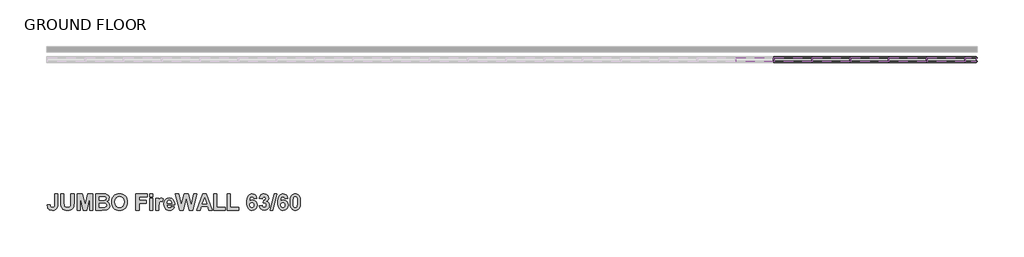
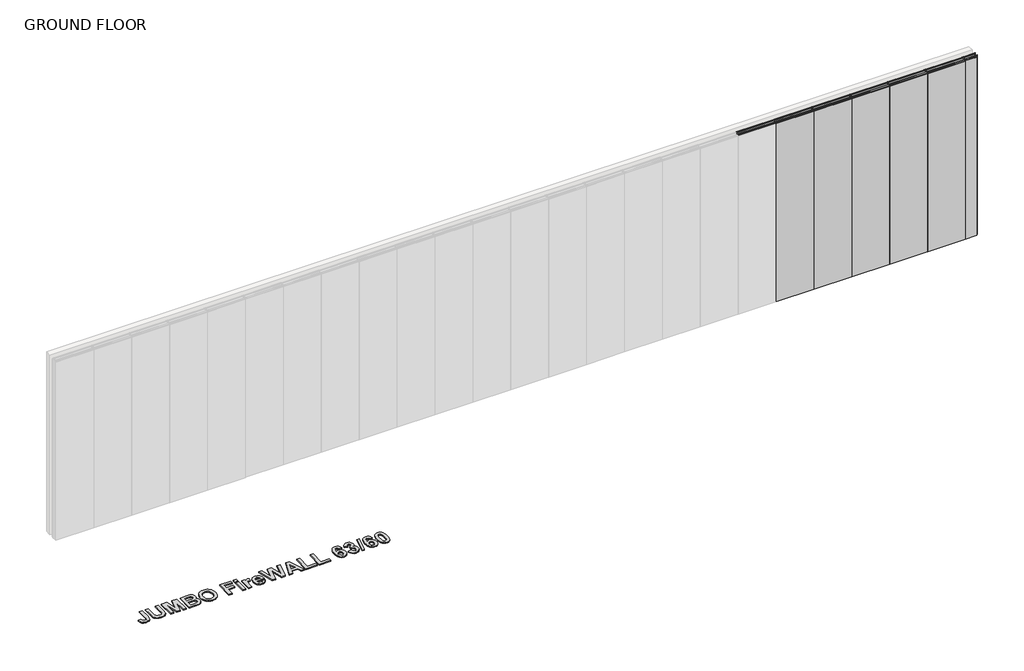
# One storey, part 2 of 2: 20 members, 6 plates, 1 proxy.
"""IFC4 building model written with IfcOpenShell, lengths in millimetres."""

from ifc_helpers import new_model, si_unit, origin, origin_with_axes, place, context, project, spatial, polyline, outline, extrude, transform, mapped, element, save
from components import rectangular_mullion_stud_mullion_63mm_b2ef130e, rectangular_mullion_stud_mullion_63mm_af775e70, rectangular_mullion_stud_mullion_63mm_c22ba0a2, rectangular_mullion_stud_mullion_63mm_ab3eab4e, rectangular_mullion_stud_mullion_63mm_06861ceb, rectangular_mullion_stud_mullion_63mm_08592bac, plate_2_layer_drywall_panels_2_layer_15mm_drywall_panels_7b1b0b35, plate_2_layer_drywall_panels_2_layer_15mm_drywall_panels_d108bd86

model = new_model("IFC4")

# Units and contexts
model_context = context("Model", 3, world=origin())
ifc_project = project(units=[si_unit("LENGTHUNIT", "METRE", prefix="MILLI")], contexts=[model_context])

# Site, building, storey
site = spatial("IfcSite", under=ifc_project)
building = spatial("IfcBuilding", under=site)
storey = spatial("IfcBuildingStorey", under=building, Name="GROUND FLOOR", Elevation=0.0)

# Proxy
placement = place(None, origin())
element("IfcBuildingElementProxy", 1, Name="600mm Arial", ObjectType="600mm Arial", at=placement, inside=storey, context=model_context, shape_type="SweptSolid", body=[
    extrude(outline(polyline([(61762.9500241, -33369.743976), (61811.5338051, -33369.743976), (61811.5338051, -33530.994051), (61810.1104521, -33558.9866592), (61805.8403932, -33579.7043522), (61795.149431, -33599.7261838), (61778.2589759, -33615.3830664), (61755.0741377, -33625.4888724), (61725.5000263, -33628.8574744), (61691.5293357, -33623.4566406), (61677.8651473, -33616.7055985), (61666.4150635, -33607.2541395), (61657.3530497, -33595.1892463), (61650.8530712, -33580.5979016), (61645.5392201, -33543.8358577), (61694.1230011, -33539.7872093), (61696.3529207, -33558.417318), (61701.1448757, -33570.6581534), (61712.5633294, -33580.9062947), (61728.726293, -33584.3223418), (61744.7073837, -33581.8710117), (61755.200658, -33574.5170215), (61761.0126826, -33559.4611102), (61762.9500241, -33533.9040171), (61762.9500241, -33369.743976)])), origin_with_axes(), (0.0, 0.0, 1.0), 15.0),
    extrude(outline(polyline([(61860.117586, -33369.743976), (61908.701367, -33369.743976), (61908.701367, -33507.3347619), (61910.7889513, -33549.8455702), (61916.8777389, -33563.8814119), (61927.9324469, -33574.8649522), (61943.9530752, -33581.9579944), (61964.9396238, -33584.3223418), (61985.9024499, -33582.0924222), (62000.9662687, -33575.4026633), (62010.6687913, -33565.4629151), (62015.547729, -33553.4830277), (62018.0148741, -33510.307988), (62018.0148741, -33369.743976), (62066.598655, -33369.743976), (62066.598655, -33503.539154), (62062.3602262, -33568.3807887), (62056.3346987, -33585.8326775), (62046.7349738, -33600.3587851), (62033.4266236, -33612.085632), (62016.2752205, -33621.1397383), (61994.2844173, -33626.9280404), (61966.457867, -33628.8574744), (61933.8630842, -33626.754075), (61910.2196101, -33620.4438769), (61893.0602995, -33610.7650768), (61879.9180071, -33598.5558714), (61870.682028, -33584.7493477), (61865.2416567, -33570.2785926), (61861.3986037, -33543.1716263), (61860.117586, -33505.6267383), (61860.117586, -33369.743976)])), origin_with_axes(), (0.0, 0.0, 1.0), 15.0),
    extrude(outline(polyline([(62115.182436, -33624.808826), (62115.182436, -33369.743976), (62198.432769, -33369.743976), (62238.6662126, -33543.7093374), (62278.8996562, -33369.743976), (62362.1499892, -33369.743976), (62362.1499892, -33624.808826), (62313.5662082, -33624.808826), (62311.541884, -33424.0211687), (62267.1332717, -33624.808826), (62210.2624136, -33624.808826), (62165.7905412, -33424.0211687), (62163.7662169, -33624.808826), (62115.182436, -33624.808826)])), origin_with_axes(), (0.0, 0.0, 1.0), 15.0),
    extrude(outline(polyline([(62410.7337701, -33369.743976), (62515.4292877, -33369.743976), (62561.7673339, -33372.2743812), (62589.0957107, -33382.8704532), (62600.1425112, -33392.2645828), (62609.1808025, -33404.3156378), (62615.20633, -33418.5096298), (62617.2148391, -33434.3325702), (62614.8188617, -33451.570956), (62607.6309292, -33467.3543588), (62596.3310883, -33480.5282812), (62581.5993851, -33489.9382257), (62600.2294939, -33499.0793147), (62613.9885724, -33512.9649136), (62622.4812451, -33530.6619353), (62625.312136, -33551.2372931), (62623.2799042, -33568.3254361), (62617.1832091, -33584.9233131), (62607.5676691, -33599.6312936), (62594.9789029, -33611.0497474), (62579.2666678, -33618.9493563), (62560.2807208, -33623.1008024), (62497.9062312, -33624.808826), (62410.7337701, -33624.808826), (62410.7337701, -33369.743976)]), holes=[polyline([(62459.3175511, -33414.2791085), (62459.3175511, -33470.9601863), (62496.3879881, -33470.9601863), (62537.5070735, -33470.1378046), (62550.4516779, -33467.1803934), (62560.3123509, -33461.3446463), (62566.5513814, -33452.9152338), (62568.6310582, -33442.1768265), (62566.836052, -33431.9049626), (62561.4510333, -33423.7364982), (62552.5392623, -33418.0193638), (62540.163999, -33415.1014902), (62491.8332586, -33414.2791085), (62459.3175511, -33414.2791085)]), polyline([(62459.3175511, -33515.4953188), (62459.3175511, -33580.2736934), (62510.6847778, -33580.2736934), (62548.7673769, -33578.7554503), (62560.0118653, -33575.3631257), (62568.9473589, -33569.1082802), (62574.783106, -33560.117434), (62576.728355, -33548.5171074), (62575.2259269, -33538.4587465), (62570.7186425, -33530.045149), (62553.3853665, -33518.974626), (62504.1689843, -33515.4953188), (62459.3175511, -33515.4953188)])]), origin_with_axes(), (0.0, 0.0, 1.0), 15.0),
    extrude(outline(polyline([(62657.7013233, -33498.8579042), (62660.5638442, -33463.0842999), (62669.1514071, -33433.5734486), (62679.2493055, -33415.1410278), (62692.4627655, -33398.6854861), (62707.9377752, -33385.2189856), (62724.8203227, -33375.7536884), (62750.0294851, -33368.2099178), (62778.844475, -33365.6953275), (62805.1369671, -33367.8758252), (62828.6618285, -33374.4173182), (62849.4190591, -33385.3198065), (62867.408659, -33400.58329), (62881.9387205, -33419.7293642), (62892.3173358, -33442.2796242), (62898.544505, -33468.23407), (62900.620228, -33497.5927016), (62898.56032, -33526.7516685), (62892.3805959, -33552.5499408), (62882.0810558, -33574.9875187), (62867.6616995, -33594.0644021), (62849.7907124, -33609.2863712), (62829.1362795, -33620.1592063), (62805.6984008, -33626.6829073), (62779.4770763, -33628.8574744), (62752.9789887, -33626.6927917), (62729.3434221, -33620.1987439), (62708.5703765, -33609.3753308), (62690.6598518, -33594.2225524), (62676.2404955, -33575.2741661), (62665.9409554, -33553.0639294), (62659.7612313, -33527.5918421), (62657.7013233, -33498.8579042)]), holes=[polyline([(62706.2851042, -33497.0866206), (62711.4487125, -33534.837104), (62717.9032227, -33549.8099864), (62726.9395371, -33562.1812958), (62750.3853234, -33578.7870803), (62779.4138162, -33584.3223418), (62808.3790489, -33578.8266179), (62831.6350547, -33562.3394461), (62840.5606639, -33549.9740673), (62846.936099, -33534.8608266), (62852.0364471, -33496.3907591), (62847.0705268, -33458.4979404), (62840.8631264, -33443.6792546), (62832.1727658, -33431.6123845), (62809.0511878, -33415.5759412), (62779.4138162, -33410.2304601), (62749.7131845, -33415.6392013), (62726.401826, -33431.865425), (62717.6007602, -33444.0548616), (62711.3142847, -33458.9882064), (62706.2851042, -33497.0866206)])]), origin_with_axes(), (0.0, 0.0, 1.0), 15.0),
    extrude(outline(polyline([(63038.2742741, -33624.808826), (63038.2742741, -33369.743976), (63212.3661558, -33369.743976), (63212.3661558, -33414.2791085), (63086.858055, -33414.2791085), (63086.858055, -33470.9601863), (63196.1715621, -33470.9601863), (63196.1715621, -33515.4953188), (63086.858055, -33515.4953188), (63086.858055, -33624.808826), (63038.2742741, -33624.808826)])), origin_with_axes(), (0.0, 0.0, 1.0), 15.0),
    extrude(outline(polyline([(63252.8526399, -33414.2791085), (63252.8526399, -33369.743976), (63301.4364209, -33369.743976), (63301.4364209, -33414.2791085), (63252.8526399, -33414.2791085)])), origin_with_axes(), (0.0, 0.0, 1.0), 15.0),
    extrude(outline(polyline([(63252.8526399, -33624.808826), (63252.8526399, -33438.570999), (63301.4364209, -33438.570999), (63301.4364209, -33624.808826), (63252.8526399, -33624.808826)])), origin_with_axes(), (0.0, 0.0, 1.0), 15.0),
    extrude(outline(polyline([(63398.6039828, -33624.808826), (63350.0202018, -33624.808826), (63350.0202018, -33438.570999), (63398.6039828, -33438.570999), (63398.6039828, -33464.5076529), (63418.0248431, -33440.3106526), (63437.6354839, -33434.5223506), (63452.8021004, -33437.0843859), (63467.4310058, -33444.7704919), (63453.2607363, -33491.0136479), (63441.557612, -33485.0830106), (63430.7401295, -33483.1061315), (63413.628264, -33488.641393), (63407.381326, -33496.3986666), (63402.6210011, -33508.5999645), (63398.6039828, -33569.0766501), (63398.6039828, -33624.808826)])), origin_with_axes(), (0.0, 0.0, 1.0), 15.0),
    extrude(outline(polyline([(63592.9391066, -33568.1277482), (63641.5228875, -33576.225045), (63629.6932429, -33598.8958946), (63612.5497473, -33615.4146964), (63590.266366, -33625.4967799), (63563.0170644, -33628.8574744), (63541.0143999, -33626.8766415), (63522.0719443, -33620.9341429), (63506.1896976, -33611.0299786), (63493.3676597, -33597.1641485), (63479.9881419, -33568.4598639), (63475.5283026, -33533.0816354), (63477.0070082, -33511.241075), (63481.4431249, -33491.8992898), (63488.8366528, -33475.0562798), (63499.1875918, -33460.712045), (63511.8000805, -33449.2540537), (63525.9782574, -33441.0697742), (63541.7221226, -33436.1592065), (63559.0316761, -33434.5223506), (63578.2667098, -33436.2026978), (63595.3588066, -33441.2437395), (63610.3079664, -33449.6454757), (63623.1141893, -33461.4079064), (63633.3188392, -33476.6417368), (63640.4632803, -33495.4576722), (63644.5475126, -33517.8557125), (63645.5715359, -33543.8358577), (63524.1120836, -33543.8358577), (63527.227645, -33564.3005102), (63535.5621673, -33579.6410921), (63547.8504479, -33589.225002), (63562.827284, -33592.4196387), (63573.0279802, -33590.9804707), (63581.4890228, -33586.6629667), (63588.1471516, -33579.1508261), (63592.9391066, -33568.1277482)]), holes=[polyline([(63596.987755, -33515.4953188), (63594.0303438, -33496.2879614), (63586.1702725, -33482.3153799), (63574.7518188, -33473.7989847), (63561.1192604, -33470.9601863), (63546.7275805, -33473.9492275), (63535.0560863, -33482.9163511), (63527.4016104, -33497.0708055), (63524.9344653, -33515.4953188), (63596.987755, -33515.4953188)])]), origin_with_axes(), (0.0, 0.0, 1.0), 15.0),
    extrude(outline(polyline([(64232.6255557, -33624.808826), (64181.5746297, -33624.808826), (64161.5844281, -33568.1277482), (64065.2392479, -33568.1277482), (64045.5020869, -33624.808826), (63993.7552994, -33624.808826), (64086.8742129, -33369.743976), (64138.6210004, -33369.743976), (64232.6255557, -33624.808826)]), holes=[polyline([(64146.0224358, -33523.5926156), (64113.1904276, -33430.4737021), (64080.8012403, -33523.5926156), (64146.0224358, -33523.5926156)])]), origin_with_axes(), (0.0, 0.0, 1.0), 15.0),
    extrude(outline(polyline([(63721.9265146, -33624.808826), (63657.7174812, -33369.743976), (63707.5664647, -33369.743976), (63748.8120704, -33544.9745401), (63793.1574226, -33369.743976), (63858.5051384, -33369.743976), (63902.6607101, -33547.8845061), (63943.9063158, -33369.743976), (63993.7552994, -33369.743976), (63930.495168, -33624.808826), (63872.9917085, -33624.808826), (63825.7363903, -33434.1427898), (63777.5321701, -33624.808826), (63721.9265146, -33624.808826)])), origin_with_axes(), (0.0, 0.0, 1.0), 15.0),
    extrude(outline(polyline([(64256.9174462, -33624.808826), (64256.9174462, -33369.743976), (64305.5012272, -33369.743976), (64305.5012272, -33580.2736934), (64435.0579764, -33580.2736934), (64435.0579764, -33624.808826), (64256.9174462, -33624.808826)])), origin_with_axes(), (0.0, 0.0, 1.0), 15.0),
    extrude(outline(polyline([(64471.4958121, -33624.808826), (64471.4958121, -33369.743976), (64520.079593, -33369.743976), (64520.079593, -33580.2736934), (64649.6363422, -33580.2736934), (64649.6363422, -33624.808826), (64471.4958121, -33624.808826)])), origin_with_axes(), (0.0, 0.0, 1.0), 15.0),
    extrude(outline(polyline([(64933.0417311, -33437.4323166), (64884.4579502, -33442.6196474), (64881.484724, -33430.0229737), (64875.8545723, -33421.2060929), (64867.8521657, -33416.0108546), (64857.7621747, -33414.2791085), (64844.1612464, -33417.639803), (64832.8376829, -33427.7218864), (64824.5347907, -33448.5581922), (64819.9958762, -33484.1815537), (64840.0177078, -33468.1925555), (64864.4044885, -33462.8628894), (64892.2310388, -33468.5563013), (64915.7400852, -33485.6365368), (64931.7528059, -33511.715526), (64937.0903795, -33544.4051989), (64931.6341932, -33578.8424329), (64924.8139603, -33593.232136), (64915.2656342, -33605.7358963), (64903.5743711, -33615.8515867), (64890.3253274, -33623.0770799), (64859.1538976, -33628.8574744), (64841.6229337, -33626.9913005), (64825.7209181, -33621.3927789), (64811.447851, -33612.0619095), (64798.8037322, -33598.9986923), (64788.4527932, -33581.6851851), (64781.0592653, -33559.6034455), (64776.6231486, -33532.7534734), (64775.144443, -33501.135269), (64776.6883856, -33468.6828215), (64781.3202134, -33441.1014042), (64789.0399263, -33418.391017), (64799.8475244, -33400.55166), (64813.1222676, -33387.0732982), (64828.2434159, -33377.445897), (64845.2109692, -33371.6694562), (64864.0249277, -33369.743976), (64889.3447953, -33374.077295), (64909.888523, -33387.077252), (64924.7546539, -33408.3326561), (64933.0417311, -33437.4323166)]), holes=[polyline([(64823.728224, -33543.3297766), (64826.3535194, -33560.7500353), (64834.2294058, -33573.6630097), (64845.4738942, -33581.6575088), (64858.2049956, -33584.3223418), (64870.0979003, -33582.1398673), (64879.8399606, -33575.5924437), (64886.3399391, -33564.0632847), (64888.5065986, -33546.9356041), (64886.1738812, -33529.1832298), (64879.1757292, -33516.9186718), (64868.6824549, -33509.7781844), (64855.8643707, -33507.398022), (64843.4258474, -33509.6753867), (64833.0590934, -33516.5074809), (64826.0609413, -33527.7677843), (64823.728224, -33543.3297766)])]), origin_with_axes(), (0.0, 0.0, 1.0), 15.0),
    extrude(outline(polyline([(64969.4795668, -33553.5146578), (65018.0633478, -33547.8845061), (65021.8115106, -33563.5097586), (65029.0073505, -33574.9598424), (65038.860116, -33581.981717), (65050.5790553, -33584.3223418), (65063.1520065, -33581.6416938), (65073.5424831, -33573.5997495), (65080.5169125, -33561.0188909), (65082.8417224, -33544.7214995), (65080.7146005, -33529.3018425), (65074.3332347, -33517.4563829), (65064.8837526, -33509.9126122), (65053.5522815, -33507.398022), (65034.2579414, -33511.0038495), (65038.4963702, -33470.9601863), (65052.3266165, -33469.2205327), (65062.44033, -33462.9894097), (65068.6319154, -33453.1208292), (65070.6957771, -33440.4688029), (65069.1538114, -33429.7224881), (65064.5279143, -33421.3958733), (65057.3399819, -33416.0582997), (65048.1119102, -33414.2791085), (65038.7256882, -33416.3429703), (65030.8102643, -33422.5345557), (65025.0456848, -33432.6957143), (65022.1119962, -33446.6682958), (64973.5282152, -33439.3933807), (64979.0871993, -33417.655618), (64986.907733, -33400.7730704), (64997.6303253, -33387.8600961), (65011.895485, -33378.0310532), (65028.8887378, -33371.8157453), (65047.7956096, -33369.743976), (65078.4451432, -33375.4848329), (65091.2315973, -33382.6609041), (65102.3258429, -33392.7074037), (65115.0411293, -33412.7292353), (65119.2795581, -33435.218212), (65117.0061471, -33451.1637189), (65110.1859142, -33465.4091097), (65098.8188593, -33477.9543846), (65082.9049825, -33488.7995433), (65102.7686638, -33496.3512215), (65118.2041359, -33509.6437567), (65128.1201615, -33527.5068363), (65131.4255033, -33548.770148), (65125.5660337, -33579.5382944), (65107.9876246, -33605.4195957), (65095.5510782, -33615.6736676), (65081.6793175, -33622.9980047), (65049.6301534, -33628.8574744), (65019.368088, -33623.646421), (64994.7519893, -33608.0132611), (64977.5373261, -33583.9665036), (64969.4795668, -33553.5146578)])), origin_with_axes(), (0.0, 0.0, 1.0), 15.0),
    extrude(outline(polyline([(65146.7344551, -33624.808826), (65207.4641813, -33369.743976), (65244.7876589, -33369.743976), (65184.0579327, -33624.808826), (65146.7344551, -33624.808826)])), origin_with_axes(), (0.0, 0.0, 1.0), 15.0),
    extrude(outline(polyline([(65418.8795406, -33437.4323166), (65370.2957597, -33442.6196474), (65367.3225335, -33430.0229737), (65361.6923818, -33421.2060929), (65353.6899752, -33416.0108546), (65343.5999842, -33414.2791085), (65329.9990559, -33417.639803), (65318.6754924, -33427.7218864), (65310.3726002, -33448.5581922), (65305.8336857, -33484.1815537), (65325.8555173, -33468.1925555), (65350.242298, -33462.8628894), (65378.0688483, -33468.5563013), (65401.5778947, -33485.6365368), (65417.5906154, -33511.715526), (65422.928189, -33544.4051989), (65417.4720027, -33578.8424329), (65410.6517698, -33593.232136), (65401.1034437, -33605.7358963), (65389.4121806, -33615.8515867), (65376.1631369, -33623.0770799), (65344.9917071, -33628.8574744), (65327.4607432, -33626.9913005), (65311.5587276, -33621.3927789), (65297.2856605, -33612.0619095), (65284.6415417, -33598.9986923), (65274.2906027, -33581.6851851), (65266.8970748, -33559.6034455), (65262.4609581, -33532.7534734), (65260.9822525, -33501.135269), (65262.5261951, -33468.6828215), (65267.1580229, -33441.1014042), (65274.8777358, -33418.391017), (65285.6853339, -33400.55166), (65298.9600771, -33387.0732982), (65314.0812254, -33377.445897), (65331.0487787, -33371.6694562), (65349.8627372, -33369.743976), (65375.1826048, -33374.077295), (65395.7263325, -33387.077252), (65410.5924634, -33408.3326561), (65418.8795406, -33437.4323166)]), holes=[polyline([(65309.5660335, -33543.3297766), (65312.1913289, -33560.7500353), (65320.0672153, -33573.6630097), (65331.3117037, -33581.6575088), (65344.0428051, -33584.3223418), (65355.9357098, -33582.1398673), (65365.6777701, -33575.5924437), (65372.1777486, -33564.0632847), (65374.3444081, -33546.9356041), (65372.0116907, -33529.1832298), (65365.0135387, -33516.9186718), (65354.5202644, -33509.7781844), (65341.7021803, -33507.398022), (65329.2636569, -33509.6753867), (65318.8969029, -33516.5074809), (65311.8987508, -33527.7677843), (65309.5660335, -33543.3297766)])]), origin_with_axes(), (0.0, 0.0, 1.0), 15.0),
    extrude(outline(polyline([(65536.2903446, -33369.743976), (65553.4219789, -33371.3887394), (65568.5688267, -33376.3230296), (65581.7308877, -33384.5468467), (65592.9081622, -33396.0601906), (65603.5635406, -33414.1881721), (65611.1745252, -33437.4481316), (65615.7411159, -33465.8400694), (65617.2633128, -33499.3639853), (65615.7332084, -33532.8562711), (65611.1428951, -33561.2798389), (65603.492373, -33584.6346887), (65592.781642, -33602.9208205), (65581.6597201, -33614.2681065), (65568.5371966, -33622.3733109), (65553.4140714, -33627.2364335), (65536.2903446, -33628.8574744), (65518.982768, -33627.0782832), (65503.4346138, -33621.7407096), (65489.645882, -33612.8447536), (65477.6165727, -33600.3904152), (65467.8606743, -33583.3694861), (65460.8921754, -33560.7737579), (65456.7110761, -33532.6032306), (65455.3173763, -33498.8579042), (65456.8474808, -33465.5316762), (65461.437794, -33437.2267212), (65469.0883162, -33413.9430391), (65479.7990472, -33395.6806299), (65490.9209691, -33384.3333438), (65504.0434926, -33376.2281394), (65519.1666177, -33371.3650168), (65536.2903446, -33369.743976)]), holes=[polyline([(65536.2903446, -33414.2791085), (65520.0957509, -33419.6245896), (65513.7697378, -33427.0971926), (65509.0884881, -33438.8240395), (65505.19799, -33462.9735947), (65503.9011573, -33499.3639853), (65505.0556547, -33535.2720174), (65508.5191469, -33557.8479768), (65513.7460152, -33571.1009744), (65520.1906411, -33579.0401208), (65536.2903446, -33584.3223418), (65552.4849382, -33578.9768607), (65558.8109514, -33571.5042577), (65563.4922011, -33559.7774108), (65567.3826992, -33535.7543759), (65568.6795319, -33499.3639853), (65567.5250345, -33463.4954908), (65564.0615423, -33440.9116238), (65558.8346739, -33427.6190887), (65552.390048, -33419.6245896), (65536.2903446, -33414.2791085)])]), origin_with_axes(), (0.0, 0.0, 1.0), 15.0),
])

# Members
rectangular_mullion_stud_mullion_63mm_shape = rectangular_mullion_stud_mullion_63mm_b2ef130e(model_context)
element("IfcMember", 2, ObjectType="Rectangular Mullion : Stud Mullion - 63mm", at=placement, inside=storey, context=model_context, shape_type="MappedRepresentation", body=[
    mapped(rectangular_mullion_stud_mullion_63mm_shape, transform((76216.5186508, -31259.4010443, 3000.0), x_axis=(0.0, 0.0, 1.0), y_axis=(0.0, -1.0, 0.0), z_axis=(1.0, 0.0, 0.0))),
])
rectangular_mullion_stud_mullion_63mm_2_shape = rectangular_mullion_stud_mullion_63mm_af775e70(model_context)
element("IfcMember", 3, ObjectType="Rectangular Mullion : Stud Mullion - 63mm", at=placement, inside=storey, context=model_context, shape_type="MappedRepresentation", body=[
    mapped(rectangular_mullion_stud_mullion_63mm_2_shape, transform((73054.5186511, -31259.4010443, 0.0), x_axis=(0.0, 0.0, -1.0), y_axis=(0.0, -1.0, 0.0), z_axis=(-1.0, 0.0, 0.0))),
])
element("IfcMember", 4, ObjectType="Rectangular Mullion : Stud Mullion - 63mm", at=placement, inside=storey, context=model_context, shape_type="MappedRepresentation", body=[
    mapped(rectangular_mullion_stud_mullion_63mm_2_shape, transform((73654.5186511, -31259.4010443, 0.0), x_axis=(0.0, 0.0, -1.0), y_axis=(0.0, -1.0, 0.0), z_axis=(-1.0, 0.0, 0.0))),
])
element("IfcMember", 5, ObjectType="Rectangular Mullion : Stud Mullion - 63mm", at=placement, inside=storey, context=model_context, shape_type="MappedRepresentation", body=[
    mapped(rectangular_mullion_stud_mullion_63mm_2_shape, transform((74254.5186511, -31259.4010443, 0.0), x_axis=(0.0, 0.0, -1.0), y_axis=(0.0, -1.0, 0.0), z_axis=(-1.0, 0.0, 0.0))),
])
element("IfcMember", 6, ObjectType="Rectangular Mullion : Stud Mullion - 63mm", at=placement, inside=storey, context=model_context, shape_type="MappedRepresentation", body=[
    mapped(rectangular_mullion_stud_mullion_63mm_2_shape, transform((74854.5186511, -31259.4010443, 0.0), x_axis=(0.0, 0.0, -1.0), y_axis=(0.0, -1.0, 0.0), z_axis=(-1.0, 0.0, 0.0))),
])
element("IfcMember", 7, ObjectType="Rectangular Mullion : Stud Mullion - 63mm", at=placement, inside=storey, context=model_context, shape_type="MappedRepresentation", body=[
    mapped(rectangular_mullion_stud_mullion_63mm_2_shape, transform((75454.5186511, -31259.4010443, 0.0), x_axis=(0.0, 0.0, -1.0), y_axis=(0.0, -1.0, 0.0), z_axis=(-1.0, 0.0, 0.0))),
])
rectangular_mullion_stud_mullion_63mm_3_shape = rectangular_mullion_stud_mullion_63mm_c22ba0a2(model_context)
element("IfcMember", 8, ObjectType="Rectangular Mullion : Stud Mullion - 63mm", at=placement, inside=storey, context=model_context, shape_type="MappedRepresentation", body=[
    mapped(rectangular_mullion_stud_mullion_63mm_3_shape, transform((76235.5186508, -31259.4010443, 0.0), x_axis=(1.0, 0.0, 0.0), y_axis=(0.0, -1.0, 0.0), z_axis=(0.0, 0.0, -1.0))),
])
rectangular_mullion_stud_mullion_63mm_4_shape = rectangular_mullion_stud_mullion_63mm_ab3eab4e(model_context)
element("IfcMember", 9, ObjectType="Rectangular Mullion : Stud Mullion - 63mm", at=placement, inside=storey, context=model_context, shape_type="MappedRepresentation", body=[
    mapped(rectangular_mullion_stud_mullion_63mm_4_shape, transform((73035.5186511, -31259.4010443, 3000.0), x_axis=(0.0, 0.0, 1.0), y_axis=(0.0, -1.0, 0.0), z_axis=(1.0, 0.0, 0.0))),
])
element("IfcMember", 10, ObjectType="Rectangular Mullion : Stud Mullion - 63mm", at=placement, inside=storey, context=model_context, shape_type="MappedRepresentation", body=[
    mapped(rectangular_mullion_stud_mullion_63mm_4_shape, transform((73635.5186511, -31259.4010443, 3000.0), x_axis=(0.0, 0.0, 1.0), y_axis=(0.0, -1.0, 0.0), z_axis=(1.0, 0.0, 0.0))),
])
element("IfcMember", 11, ObjectType="Rectangular Mullion : Stud Mullion - 63mm", at=placement, inside=storey, context=model_context, shape_type="MappedRepresentation", body=[
    mapped(rectangular_mullion_stud_mullion_63mm_4_shape, transform((74235.5186511, -31259.4010443, 3000.0), x_axis=(0.0, 0.0, 1.0), y_axis=(0.0, -1.0, 0.0), z_axis=(1.0, 0.0, 0.0))),
])
element("IfcMember", 12, ObjectType="Rectangular Mullion : Stud Mullion - 63mm", at=placement, inside=storey, context=model_context, shape_type="MappedRepresentation", body=[
    mapped(rectangular_mullion_stud_mullion_63mm_4_shape, transform((74835.5186511, -31259.4010443, 3000.0), x_axis=(0.0, 0.0, 1.0), y_axis=(0.0, -1.0, 0.0), z_axis=(1.0, 0.0, 0.0))),
])
element("IfcMember", 13, ObjectType="Rectangular Mullion : Stud Mullion - 63mm", at=placement, inside=storey, context=model_context, shape_type="MappedRepresentation", body=[
    mapped(rectangular_mullion_stud_mullion_63mm_4_shape, transform((75435.5186511, -31259.4010443, 3000.0), x_axis=(0.0, 0.0, 1.0), y_axis=(0.0, -1.0, 0.0), z_axis=(1.0, 0.0, 0.0))),
])
element("IfcMember", 14, ObjectType="Rectangular Mullion : Stud Mullion - 63mm", at=placement, inside=storey, context=model_context, shape_type="MappedRepresentation", body=[
    mapped(rectangular_mullion_stud_mullion_63mm_4_shape, transform((76035.5186511, -31259.4010443, 3000.0), x_axis=(0.0, 0.0, 1.0), y_axis=(0.0, -1.0, 0.0), z_axis=(1.0, 0.0, 0.0))),
])
rectangular_mullion_stud_mullion_63mm_5_shape = rectangular_mullion_stud_mullion_63mm_06861ceb(model_context)
element("IfcMember", 15, ObjectType="Rectangular Mullion : Stud Mullion - 63mm", at=placement, inside=storey, context=model_context, shape_type="MappedRepresentation", body=[
    mapped(rectangular_mullion_stud_mullion_63mm_5_shape, transform((76054.5186511, -31259.4010443, 0.0), x_axis=(0.0, 0.0, -1.0), y_axis=(0.0, -1.0, 0.0), z_axis=(-1.0, 0.0, 0.0))),
])
rectangular_mullion_stud_mullion_63mm_6_shape = rectangular_mullion_stud_mullion_63mm_08592bac(model_context)
element("IfcMember", 16, ObjectType="Rectangular Mullion : Stud Mullion - 63mm", at=placement, inside=storey, context=model_context, shape_type="MappedRepresentation", body=[
    mapped(rectangular_mullion_stud_mullion_63mm_6_shape, transform((73045.0186511, -31259.4010443, 0.0), x_axis=(1.0, 0.0, 0.0), y_axis=(0.0, -1.0, 0.0), z_axis=(0.0, 0.0, -1.0))),
])
element("IfcMember", 17, ObjectType="Rectangular Mullion : Stud Mullion - 63mm", at=placement, inside=storey, context=model_context, shape_type="MappedRepresentation", body=[
    mapped(rectangular_mullion_stud_mullion_63mm_6_shape, transform((73645.0186511, -31259.4010443, 0.0), x_axis=(1.0, 0.0, 0.0), y_axis=(0.0, -1.0, 0.0), z_axis=(0.0, 0.0, -1.0))),
])
element("IfcMember", 18, ObjectType="Rectangular Mullion : Stud Mullion - 63mm", at=placement, inside=storey, context=model_context, shape_type="MappedRepresentation", body=[
    mapped(rectangular_mullion_stud_mullion_63mm_6_shape, transform((74245.0186511, -31259.4010443, 0.0), x_axis=(1.0, 0.0, 0.0), y_axis=(0.0, -1.0, 0.0), z_axis=(0.0, 0.0, -1.0))),
])
element("IfcMember", 19, ObjectType="Rectangular Mullion : Stud Mullion - 63mm", at=placement, inside=storey, context=model_context, shape_type="MappedRepresentation", body=[
    mapped(rectangular_mullion_stud_mullion_63mm_6_shape, transform((74845.0186511, -31259.4010443, 0.0), x_axis=(1.0, 0.0, 0.0), y_axis=(0.0, -1.0, 0.0), z_axis=(0.0, 0.0, -1.0))),
])
element("IfcMember", 20, ObjectType="Rectangular Mullion : Stud Mullion - 63mm", at=placement, inside=storey, context=model_context, shape_type="MappedRepresentation", body=[
    mapped(rectangular_mullion_stud_mullion_63mm_6_shape, transform((75445.0186511, -31259.4010443, 0.0), x_axis=(1.0, 0.0, 0.0), y_axis=(0.0, -1.0, 0.0), z_axis=(0.0, 0.0, -1.0))),
])
element("IfcMember", 21, ObjectType="Rectangular Mullion : Stud Mullion - 63mm", at=placement, inside=storey, context=model_context, shape_type="MappedRepresentation", body=[
    mapped(rectangular_mullion_stud_mullion_63mm_6_shape, transform((76045.0186511, -31259.4010443, 0.0), x_axis=(1.0, 0.0, 0.0), y_axis=(0.0, -1.0, 0.0), z_axis=(0.0, 0.0, -1.0))),
])

# Plates
plate_2_layer_drywall_panels_2_layer_15mm_drywall_panels_shape = plate_2_layer_drywall_panels_2_layer_15mm_drywall_panels_7b1b0b35(model_context)
element("IfcPlate", 22, ObjectType="2 Layer - Drywall Panels : 2 Layer - 15mm Drywall Panels 93mm", at=placement, inside=storey, context=model_context, shape_type="MappedRepresentation", body=[
    mapped(plate_2_layer_drywall_panels_2_layer_15mm_drywall_panels_shape, transform((73336.3186511, -31259.4010443, 1.6), x_axis=(1.0, 0.0, 0.0), y_axis=(0.0, 1.0, 0.0), z_axis=(0.0, 0.0, 1.0))),
])
element("IfcPlate", 23, ObjectType="2 Layer - Drywall Panels : 2 Layer - 15mm Drywall Panels 93mm", at=placement, inside=storey, context=model_context, shape_type="MappedRepresentation", body=[
    mapped(plate_2_layer_drywall_panels_2_layer_15mm_drywall_panels_shape, transform((73936.3186511, -31259.4010443, 1.6), x_axis=(1.0, 0.0, 0.0), y_axis=(0.0, 1.0, 0.0), z_axis=(0.0, 0.0, 1.0))),
])
element("IfcPlate", 24, ObjectType="2 Layer - Drywall Panels : 2 Layer - 15mm Drywall Panels 93mm", at=placement, inside=storey, context=model_context, shape_type="MappedRepresentation", body=[
    mapped(plate_2_layer_drywall_panels_2_layer_15mm_drywall_panels_shape, transform((74536.3186511, -31259.4010443, 1.6), x_axis=(1.0, 0.0, 0.0), y_axis=(0.0, 1.0, 0.0), z_axis=(0.0, 0.0, 1.0))),
])
element("IfcPlate", 25, ObjectType="2 Layer - Drywall Panels : 2 Layer - 15mm Drywall Panels 93mm", at=placement, inside=storey, context=model_context, shape_type="MappedRepresentation", body=[
    mapped(plate_2_layer_drywall_panels_2_layer_15mm_drywall_panels_shape, transform((75136.3186511, -31259.4010443, 1.6), x_axis=(1.0, 0.0, 0.0), y_axis=(0.0, 1.0, 0.0), z_axis=(0.0, 0.0, 1.0))),
])
element("IfcPlate", 26, ObjectType="2 Layer - Drywall Panels : 2 Layer - 15mm Drywall Panels 93mm", at=placement, inside=storey, context=model_context, shape_type="MappedRepresentation", body=[
    mapped(plate_2_layer_drywall_panels_2_layer_15mm_drywall_panels_shape, transform((75736.3186511, -31259.4010443, 1.6), x_axis=(1.0, 0.0, 0.0), y_axis=(0.0, 1.0, 0.0), z_axis=(0.0, 0.0, 1.0))),
])
plate_2_layer_drywall_panels_2_layer_15mm_drywall_panels_2_shape = plate_2_layer_drywall_panels_2_layer_15mm_drywall_panels_d108bd86(model_context)
element("IfcPlate", 27, ObjectType="2 Layer - Drywall Panels : 2 Layer - 15mm Drywall Panels 93mm", at=placement, inside=storey, context=model_context, shape_type="MappedRepresentation", body=[
    mapped(plate_2_layer_drywall_panels_2_layer_15mm_drywall_panels_2_shape, transform((76126.818651, -31259.4010443, 1.6), x_axis=(1.0, 0.0, 0.0), y_axis=(0.0, 1.0, 0.0), z_axis=(0.0, 0.0, 1.0))),
])

save(model, "model.ifc")
